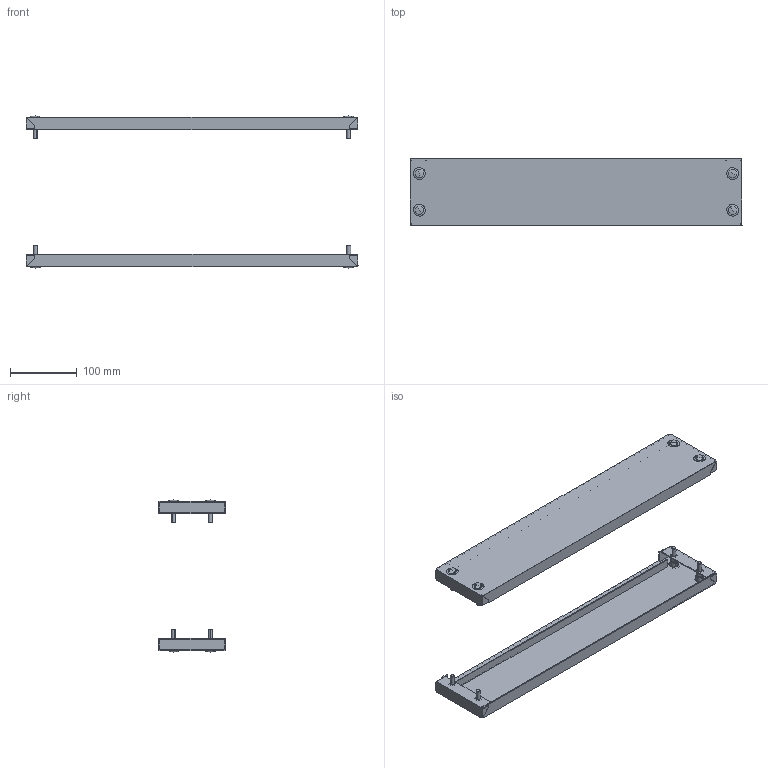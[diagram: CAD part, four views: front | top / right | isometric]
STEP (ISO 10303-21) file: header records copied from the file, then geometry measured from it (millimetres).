
FILE_DESCRIPTION (( 'STEP AP203' ), '1' );
FILE_NAME ('R5FZ5-250.STEP', '2025-06-18T08:32:16', ( '' ), ( '' ), 'SwSTEP 2.0', 'SolidWorks 2022', '' );
FILE_SCHEMA (( 'CONFIG_CONTROL_DESIGN' ));
Length unit declared in the file: millimetre
Products named in the file (5): M6x16 DIN 912 HX cl.4,8 Zinc_stright; 6 DIN 6798 A Zinc; R5FZ5-250; RB.1055.00.00.0 simple_-01 (500); Plug_11.5-13Д18ЧК_-00
Assembly tree (26 placements, depth 2):
  R5FZ5-250
    RB.1055.00.00.0 simple_-01 (500)  x2
    M6x16 DIN 912 HX cl.4,8 Zinc_stright  x8
    6 DIN 6798 A Zinc  x8
    Plug_11.5-13Д18ЧК_-00  x8
Bounding box: 499 x 100.05 x 228.5 mm (x, y, z)
Volume: 250300.8 mm3; surface area: 339943.7 mm2
Topology: 26 solids, 26 shells, 1196 faces, 3456 edges, 2112 vertices
Faces by surface type: plane 700, bspline 208, cylinder 128, cone 96, torus 48, sphere 16
Entity records: 9921 total; most frequent: CARTESIAN_POINT 2626, ORIENTED_EDGE 1352, DIRECTION 1188, EDGE_CURVE 676, LINE 448, VECTOR 448, VERTEX_POINT 444, AXIS2_PLACEMENT_3D 370
